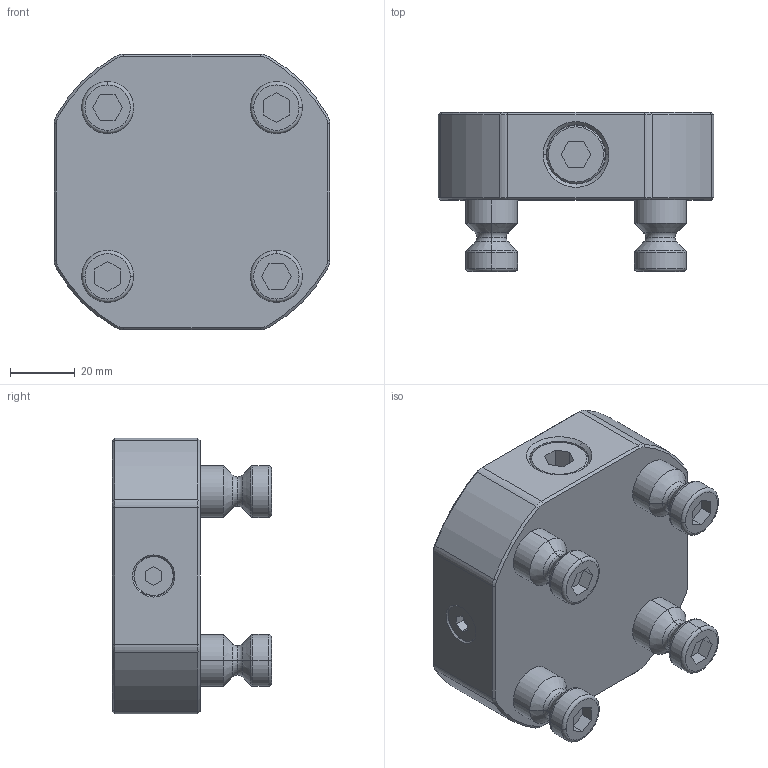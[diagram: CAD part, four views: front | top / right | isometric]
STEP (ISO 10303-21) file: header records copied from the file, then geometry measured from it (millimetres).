
FILE_DESCRIPTION (( 'STEP AP214' ), '1' );
FILE_NAME ('45162.STEP', '2023-07-27T07:54:26', ( '' ), ( '' ), 'SwSTEP 2.0', 'SolidWorks 2021', '' );
FILE_SCHEMA (( 'AUTOMOTIVE_DESIGN' ));
Length unit declared in the file: millimetre
Products named in the file (1): 45162
Bounding box: 85 x 49 x 85 mm (x, y, z)
Volume: 170526.2 mm3; surface area: 39372.7 mm2
Topology: 8 solids, 8 shells, 304 faces, 663 edges, 386 vertices
Faces by surface type: plane 92, cone 90, cylinder 86, torus 36
Entity records: 11998 total; most frequent: CARTESIAN_POINT 1784, DIRECTION 1543, ORIENTED_EDGE 1294, EDGE_CURVE 647, AXIS2_PLACEMENT_3D 605, VERTEX_POINT 386, EDGE_LOOP 339, VECTOR 333
